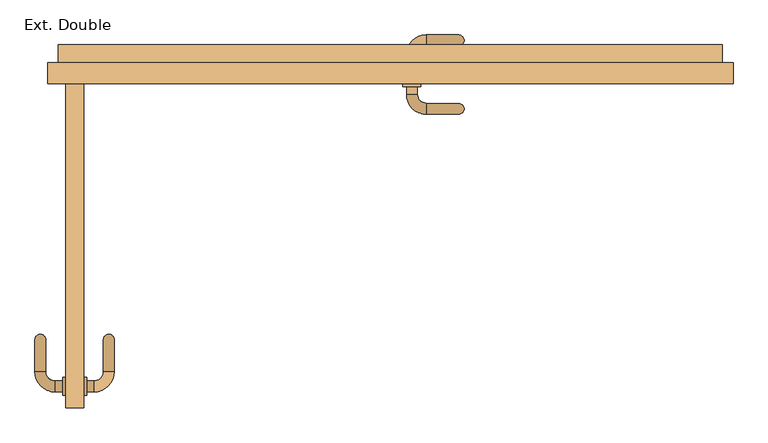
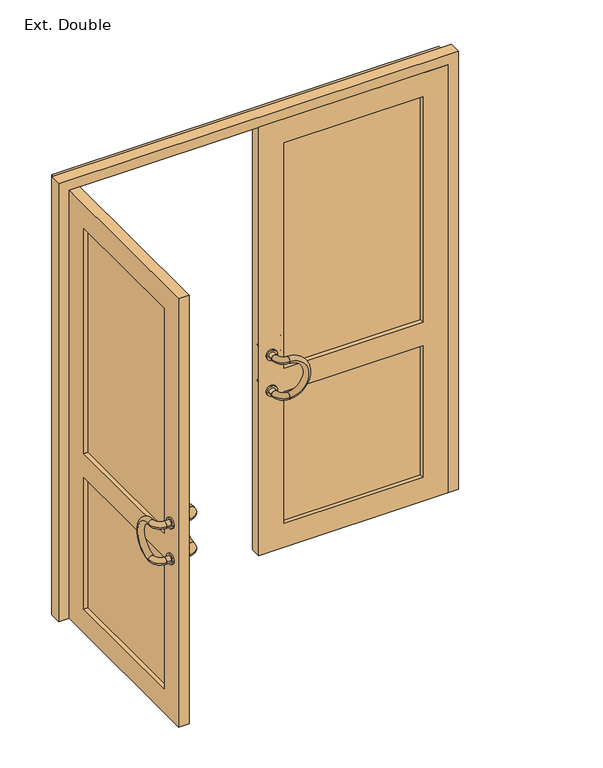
"""IFC4 building model written with IfcOpenShell, lengths in millimetres: door geometry, Ext. Double : Vitrée avec traverse - 1.80 m x 2.15 m."""

from ifc_helpers import new_model, si_unit, point, frame, origin, place, context, project, spatial, polyline, circle_curve, ellipse_curve, trimmed, outline, extrude, faceted_brep, source, transform, mapped, element, save
from ifc_brep_helpers import plane_surface, cylinder_surface, revolved_surface, advanced_brep


def ext_double_655bdf71(model_context):
    return source(origin(), model_context, "Body", "SolidModel", [
        advanced_brep(
        [(35.0, -198.0, 990.0), (65.0, -198.0, 990.0), (90.0, -253.0, 990.0), (90.0, -223.0, 990.0)],
        [
            (0, 1, circle_curve(frame((50.0, -198.0, 990.0), z_axis=(0.0, 1.0, 0.0), x_axis=(1.0, 0.0, 0.0)), 15.0)),
            (1, 0, circle_curve(frame((50.0, -198.0, 990.0), z_axis=(0.0, 1.0, 0.0), x_axis=(1.0, 0.0, 0.0)), 15.0)),
            (2, 3, circle_curve(frame((90.0, -238.0, 990.0), z_axis=(1.0, 0.0, 0.0), x_axis=(0.0, 1.0, 0.0)), 15.0)),
            (3, 2, circle_curve(frame((90.0, -238.0, 990.0), z_axis=(1.0, 0.0, 0.0), x_axis=(0.0, 1.0, 0.0)), 15.0)),
            (3, 1, circle_curve(frame((90.0, -198.0, 990.0), z_axis=(0.0, 0.0, -1.0), x_axis=(-1.0, 0.0, 0.0)), 25.0)),
            (0, 2, circle_curve(frame((90.0, -198.0, 990.0), z_axis=(0.0, 0.0, 1.0), x_axis=(-1.0, 0.0, 0.0)), 55.0)),
        ],
        [
            plane_surface(frame((90.0, -198.0, 990.0), z_axis=(0.0, 1.0, 0.0), x_axis=(-1.0, 0.0, 0.0))),
            plane_surface(frame((90.0, -198.0, 990.0), z_axis=(1.0, 0.0, 0.0), x_axis=(0.0, -1.0, 0.0))),
            revolved_surface(trimmed(ellipse_curve(frame((50.0, -198.0, 990.0), z_axis=(0.0, 1.0, 0.0), x_axis=(1.0, 0.0, 0.0)), 15.0, 15.0), [point((35.0, -198.0, 990.0))], [point((65.0, -198.0, 990.0))], True, "CARTESIAN"), (90.0, -198.0, 990.0), (0.0, 0.0, 1.0)),
            revolved_surface(trimmed(ellipse_curve(frame((50.0, -198.0, 990.0), z_axis=(0.0, 1.0, 0.0), x_axis=(1.0, 0.0, 0.0)), 15.0, 15.0), [point((65.0, -198.0, 990.0))], [point((35.0, -198.0, 990.0))], True, "CARTESIAN"), (90.0, -198.0, 990.0), (0.0, 0.0, 1.0)),
        ],
        [
            (0, [[1, 2]]),
            (1, [[3, 4]]),
            (2, [[5, -1, 6, -4]]),
            (3, [[-6, -2, -5, -3]]),
        ],
    ),
        advanced_brep(
        [(35.0, -198.0, 810.0), (65.0, -198.0, 810.0), (90.0, -253.0, 810.0), (90.0, -223.0, 810.0)],
        [
            (0, 1, circle_curve(frame((50.0, -198.0, 810.0), z_axis=(0.0, 1.0, 0.0), x_axis=(1.0, 0.0, 0.0)), 15.0)),
            (1, 0, circle_curve(frame((50.0, -198.0, 810.0), z_axis=(0.0, 1.0, 0.0), x_axis=(1.0, 0.0, 0.0)), 15.0)),
            (2, 3, circle_curve(frame((90.0, -238.0, 810.0), z_axis=(1.0, 0.0, 0.0), x_axis=(0.0, 1.0, 0.0)), 15.0)),
            (3, 2, circle_curve(frame((90.0, -238.0, 810.0), z_axis=(1.0, 0.0, 0.0), x_axis=(0.0, 1.0, 0.0)), 15.0)),
            (3, 1, circle_curve(frame((90.0, -198.0, 810.0), z_axis=(0.0, 0.0, -1.0), x_axis=(-1.0, 0.0, 0.0)), 25.0)),
            (0, 2, circle_curve(frame((90.0, -198.0, 810.0), z_axis=(0.0, 0.0, 1.0), x_axis=(-1.0, 0.0, 0.0)), 55.0)),
        ],
        [
            plane_surface(frame((90.0, -198.0, 990.0), z_axis=(0.0, 1.0, 0.0), x_axis=(-1.0, 0.0, 0.0))),
            plane_surface(frame((90.0, -198.0, 990.0), z_axis=(1.0, 0.0, 0.0), x_axis=(0.0, -1.0, 0.0))),
            revolved_surface(trimmed(ellipse_curve(frame((50.0, -198.0, 810.0), z_axis=(0.0, 1.0, 0.0), x_axis=(1.0, 0.0, 0.0)), 15.0, 15.0), [point((35.0, -198.0, 810.0))], [point((65.0, -198.0, 810.0))], True, "CARTESIAN"), (90.0, -198.0, 990.0), (0.0, 0.0, 1.0)),
            revolved_surface(trimmed(ellipse_curve(frame((50.0, -198.0, 810.0), z_axis=(0.0, 1.0, 0.0), x_axis=(1.0, 0.0, 0.0)), 15.0, 15.0), [point((65.0, -198.0, 810.0))], [point((35.0, -198.0, 810.0))], True, "CARTESIAN"), (90.0, -198.0, 990.0), (0.0, 0.0, 1.0)),
        ],
        [
            (0, [[1, 2]]),
            (1, [[3, 4]]),
            (2, [[5, -1, 6, -4]]),
            (3, [[-6, -2, -5, -3]]),
        ],
    ),
        advanced_brep(
        [(90.0, -223.0, 990.0), (90.0, -253.0, 990.0), (90.0, -223.0, 810.0), (90.0, -253.0, 810.0)],
        [
            (0, 1, circle_curve(frame((90.0, -238.0, 990.0), z_axis=(-1.0, 0.0, 0.0), x_axis=(0.0, -1.0, 0.0)), 15.0)),
            (1, 0, circle_curve(frame((90.0, -238.0, 990.0), z_axis=(-1.0, 0.0, 0.0), x_axis=(0.0, -1.0, 0.0)), 15.0)),
            (2, 3, circle_curve(frame((90.0, -238.0, 810.0), z_axis=(-1.0, 0.0, 0.0), x_axis=(0.0, -1.0, 0.0)), 15.0)),
            (3, 2, circle_curve(frame((90.0, -238.0, 810.0), z_axis=(-1.0, 0.0, 0.0), x_axis=(0.0, -1.0, 0.0)), 15.0)),
            (3, 1, circle_curve(frame((90.0, -253.0, 900.0), z_axis=(0.0, -1.0, 0.0), x_axis=(0.0, 0.0, 1.0)), 90.0)),
            (0, 2, circle_curve(frame((90.0, -223.0, 900.0), z_axis=(0.0, 1.0, 0.0), x_axis=(0.0, 0.0, 1.0)), 90.0)),
        ],
        [
            plane_surface(frame((90.0, -253.0, 900.0), z_axis=(-1.0, 0.0, 0.0), x_axis=(0.0, 0.0, 1.0))),
            plane_surface(frame((90.0, -253.0, 900.0), z_axis=(-1.0, 0.0, 0.0), x_axis=(0.0, 0.0, -1.0))),
            revolved_surface(trimmed(ellipse_curve(frame((90.0, -238.0, 990.0), z_axis=(-1.0, 0.0, 0.0), x_axis=(0.0, -1.0, 0.0)), 15.0, 15.0), [point((90.0, -223.0, 990.0))], [point((90.0, -253.0, 990.0))], True, "CARTESIAN"), (90.0, -253.0, 900.0), (0.0, 1.0, 0.0)),
            revolved_surface(trimmed(ellipse_curve(frame((90.0, -238.0, 990.0), z_axis=(-1.0, 0.0, 0.0), x_axis=(0.0, -1.0, 0.0)), 15.0, 15.0), [point((90.0, -253.0, 990.0))], [point((90.0, -223.0, 990.0))], True, "CARTESIAN"), (90.0, -253.0, 900.0), (0.0, 1.0, 0.0)),
        ],
        [
            (0, [[1, 2]]),
            (1, [[3, 4]]),
            (2, [[5, -1, 6, -4]]),
            (3, [[-6, -2, -5, -3]]),
        ],
    ),
        advanced_brep(
        [(65.0, -88.0, 990.0), (35.0, -88.0, 990.0), (90.0, -63.0, 990.0), (90.0, -33.0, 990.0)],
        [
            (0, 1, circle_curve(frame((50.0, -88.0, 990.0), z_axis=(0.0, -1.0, 0.0), x_axis=(-1.0, 0.0, 0.0)), 15.0)),
            (1, 0, circle_curve(frame((50.0, -88.0, 990.0), z_axis=(0.0, -1.0, 0.0), x_axis=(-1.0, 0.0, 0.0)), 15.0)),
            (2, 3, circle_curve(frame((90.0, -48.0, 990.0), z_axis=(1.0, 0.0, 0.0), x_axis=(0.0, 1.0, 0.0)), 15.0)),
            (3, 2, circle_curve(frame((90.0, -48.0, 990.0), z_axis=(1.0, 0.0, 0.0), x_axis=(0.0, 1.0, 0.0)), 15.0)),
            (3, 1, circle_curve(frame((90.0, -88.0, 990.0), z_axis=(0.0, 0.0, 1.0), x_axis=(-1.0, 0.0, 0.0)), 55.0)),
            (0, 2, circle_curve(frame((90.0, -88.0, 990.0), z_axis=(0.0, 0.0, -1.0), x_axis=(-1.0, 0.0, 0.0)), 25.0)),
        ],
        [
            plane_surface(frame((90.0, -88.0, 990.0), z_axis=(0.0, -1.0, 0.0), x_axis=(-1.0, 0.0, 0.0))),
            plane_surface(frame((90.0, -88.0, 990.0), z_axis=(1.0, 0.0, 0.0), x_axis=(0.0, 1.0, 0.0))),
            revolved_surface(trimmed(ellipse_curve(frame((50.0, -88.0, 990.0), z_axis=(0.0, -1.0, 0.0), x_axis=(-1.0, 0.0, 0.0)), 15.0, 15.0), [point((65.0, -88.0, 990.0))], [point((35.0, -88.0, 990.0))], True, "CARTESIAN"), (90.0, -88.0, 990.0), (0.0, 0.0, -1.0)),
            revolved_surface(trimmed(ellipse_curve(frame((50.0, -88.0, 990.0), z_axis=(0.0, -1.0, 0.0), x_axis=(-1.0, 0.0, 0.0)), 15.0, 15.0), [point((35.0, -88.0, 990.0))], [point((65.0, -88.0, 990.0))], True, "CARTESIAN"), (90.0, -88.0, 990.0), (0.0, 0.0, -1.0)),
        ],
        [
            (0, [[1, 2]]),
            (1, [[3, 4]]),
            (2, [[5, -1, 6, -4]]),
            (3, [[-6, -2, -5, -3]]),
        ],
    ),
        advanced_brep(
        [(65.0, -88.0, 810.0), (35.0, -88.0, 810.0), (90.0, -63.0, 810.0), (90.0, -33.0, 810.0)],
        [
            (0, 1, circle_curve(frame((50.0, -88.0, 810.0), z_axis=(0.0, -1.0, 0.0), x_axis=(-1.0, 0.0, 0.0)), 15.0)),
            (1, 0, circle_curve(frame((50.0, -88.0, 810.0), z_axis=(0.0, -1.0, 0.0), x_axis=(-1.0, 0.0, 0.0)), 15.0)),
            (2, 3, circle_curve(frame((90.0, -48.0, 810.0), z_axis=(1.0, 0.0, 0.0), x_axis=(0.0, 1.0, 0.0)), 15.0)),
            (3, 2, circle_curve(frame((90.0, -48.0, 810.0), z_axis=(1.0, 0.0, 0.0), x_axis=(0.0, 1.0, 0.0)), 15.0)),
            (3, 1, circle_curve(frame((90.0, -88.0, 810.0), z_axis=(0.0, 0.0, 1.0), x_axis=(-1.0, 0.0, 0.0)), 55.0)),
            (0, 2, circle_curve(frame((90.0, -88.0, 810.0), z_axis=(0.0, 0.0, -1.0), x_axis=(-1.0, 0.0, 0.0)), 25.0)),
        ],
        [
            plane_surface(frame((90.0, -88.0, 990.0), z_axis=(0.0, -1.0, 0.0), x_axis=(-1.0, 0.0, 0.0))),
            plane_surface(frame((90.0, -88.0, 990.0), z_axis=(1.0, 0.0, 0.0), x_axis=(0.0, 1.0, 0.0))),
            revolved_surface(trimmed(ellipse_curve(frame((50.0, -88.0, 810.0), z_axis=(0.0, -1.0, 0.0), x_axis=(-1.0, 0.0, 0.0)), 15.0, 15.0), [point((65.0, -88.0, 810.0))], [point((35.0, -88.0, 810.0))], True, "CARTESIAN"), (90.0, -88.0, 990.0), (0.0, 0.0, -1.0)),
            revolved_surface(trimmed(ellipse_curve(frame((50.0, -88.0, 810.0), z_axis=(0.0, -1.0, 0.0), x_axis=(-1.0, 0.0, 0.0)), 15.0, 15.0), [point((35.0, -88.0, 810.0))], [point((65.0, -88.0, 810.0))], True, "CARTESIAN"), (90.0, -88.0, 990.0), (0.0, 0.0, -1.0)),
        ],
        [
            (0, [[1, 2]]),
            (1, [[3, 4]]),
            (2, [[5, -1, 6, -4]]),
            (3, [[-6, -2, -5, -3]]),
        ],
    ),
        advanced_brep(
        [(90.0, -33.0, 990.0), (90.0, -63.0, 990.0), (90.0, -33.0, 810.0), (90.0, -63.0, 810.0)],
        [
            (0, 1, circle_curve(frame((90.0, -48.0, 990.0), z_axis=(-1.0, 0.0, 0.0), x_axis=(0.0, -1.0, 0.0)), 15.0)),
            (1, 0, circle_curve(frame((90.0, -48.0, 990.0), z_axis=(-1.0, 0.0, 0.0), x_axis=(0.0, -1.0, 0.0)), 15.0)),
            (2, 3, circle_curve(frame((90.0, -48.0, 810.0), z_axis=(-1.0, 0.0, 0.0), x_axis=(0.0, -1.0, 0.0)), 15.0)),
            (3, 2, circle_curve(frame((90.0, -48.0, 810.0), z_axis=(-1.0, 0.0, 0.0), x_axis=(0.0, -1.0, 0.0)), 15.0)),
            (3, 1, circle_curve(frame((90.0, -63.0, 900.0), z_axis=(0.0, -1.0, 0.0), x_axis=(0.0, 0.0, 1.0)), 90.0)),
            (0, 2, circle_curve(frame((90.0, -33.0, 900.0), z_axis=(0.0, 1.0, 0.0), x_axis=(0.0, 0.0, 1.0)), 90.0)),
        ],
        [
            plane_surface(frame((90.0, -48.0, 900.0), z_axis=(-1.0, 0.0, 0.0), x_axis=(0.0, 0.0, 1.0))),
            plane_surface(frame((90.0, -48.0, 900.0), z_axis=(-1.0, 0.0, 0.0), x_axis=(0.0, 0.0, -1.0))),
            revolved_surface(trimmed(ellipse_curve(frame((90.0, -48.0, 990.0), z_axis=(-1.0, 0.0, 0.0), x_axis=(0.0, -1.0, 0.0)), 15.0, 15.0), [point((90.0, -33.0, 990.0))], [point((90.0, -63.0, 990.0))], True, "CARTESIAN"), (90.0, -48.0, 900.0), (0.0, 1.0, 0.0)),
            revolved_surface(trimmed(ellipse_curve(frame((90.0, -48.0, 990.0), z_axis=(-1.0, 0.0, 0.0), x_axis=(0.0, -1.0, 0.0)), 15.0, 15.0), [point((90.0, -63.0, 990.0))], [point((90.0, -33.0, 990.0))], True, "CARTESIAN"), (90.0, -48.0, 900.0), (0.0, 1.0, 0.0)),
        ],
        [
            (0, [[1, 2]]),
            (1, [[3, 4]]),
            (2, [[5, -1, 6, -4]]),
            (3, [[-6, -2, -5, -3]]),
        ],
    ),
        advanced_brep(
        [(25.0, -176.0, 990.0), (75.0, -176.0, 990.0), (65.0, -176.0, 990.0), (35.0, -176.0, 990.0), (25.0, -168.0, 990.0), (75.0, -168.0, 990.0), (35.0, -198.0, 990.0), (65.0, -198.0, 990.0)],
        [
            (0, 1, circle_curve(frame((50.0, -176.0, 990.0), z_axis=(0.0, -1.0, 0.0), x_axis=(1.0, 0.0, 0.0)), 25.0)),
            (1, 0, circle_curve(frame((50.0, -176.0, 990.0), z_axis=(0.0, -1.0, 0.0), x_axis=(1.0, 0.0, 0.0)), 25.0)),
            (2, 3, circle_curve(frame((50.0, -176.0, 990.0), z_axis=(0.0, 1.0, 0.0), x_axis=(1.0, 0.0, 0.0)), 15.0)),
            (3, 2, circle_curve(frame((50.0, -176.0, 990.0), z_axis=(0.0, 1.0, 0.0), x_axis=(1.0, 0.0, 0.0)), 15.0)),
            (4, 5, circle_curve(frame((50.0, -168.0, 990.0), z_axis=(0.0, 1.0, 0.0), x_axis=(1.0, 0.0, 0.0)), 25.0)),
            (5, 4, circle_curve(frame((50.0, -168.0, 990.0), z_axis=(0.0, 1.0, 0.0), x_axis=(1.0, 0.0, 0.0)), 25.0)),
            (0, 4),
            (5, 1),
            (6, 7, circle_curve(frame((50.0, -198.0, 990.0), z_axis=(0.0, -1.0, 0.0), x_axis=(1.0, 0.0, 0.0)), 15.0)),
            (7, 6, circle_curve(frame((50.0, -198.0, 990.0), z_axis=(0.0, -1.0, 0.0), x_axis=(1.0, 0.0, 0.0)), 15.0)),
            (6, 3),
            (2, 7),
        ],
        [
            plane_surface(frame((75.0, -176.0, 990.0), z_axis=(0.0, -1.0, 0.0), x_axis=(0.0, 0.0, 1.0))),
            plane_surface(frame((75.0, -168.0, 990.0), z_axis=(0.0, 1.0, 0.0), x_axis=(0.0, 0.0, -1.0))),
            cylinder_surface(frame((50.0, -168.0, 990.0), z_axis=(0.0, -1.0, 0.0), x_axis=(1.0, 0.0, 0.0)), 25.0),
            plane_surface(frame((65.0, -198.0, 990.0), z_axis=(0.0, -1.0, 0.0), x_axis=(0.0, 0.0, 1.0))),
            cylinder_surface(frame((50.0, -168.0, 990.0), z_axis=(0.0, -1.0, 0.0), x_axis=(1.0, 0.0, 0.0)), 15.0),
        ],
        [
            (0, [[1, 2], [3, 4]]),
            (1, [[5, 6]]),
            (2, [[-1, 7, -6, 8]]),
            (2, [[-2, -8, -5, -7]]),
            (3, [[9, 10]]),
            (4, [[-9, 11, -3, 12]]),
            (4, [[-10, -12, -4, -11]]),
        ],
    ),
        advanced_brep(
        [(25.0, -176.0, 810.0), (75.0, -176.0, 810.0), (65.0, -176.0, 810.0), (35.0, -176.0, 810.0), (25.0, -168.0, 810.0), (75.0, -168.0, 810.0), (35.0, -198.0, 810.0), (65.0, -198.0, 810.0)],
        [
            (0, 1, circle_curve(frame((50.0, -176.0, 810.0), z_axis=(0.0, -1.0, 0.0), x_axis=(1.0, 0.0, 0.0)), 25.0)),
            (1, 0, circle_curve(frame((50.0, -176.0, 810.0), z_axis=(0.0, -1.0, 0.0), x_axis=(1.0, 0.0, 0.0)), 25.0)),
            (2, 3, circle_curve(frame((50.0, -176.0, 810.0), z_axis=(0.0, 1.0, 0.0), x_axis=(1.0, 0.0, 0.0)), 15.0)),
            (3, 2, circle_curve(frame((50.0, -176.0, 810.0), z_axis=(0.0, 1.0, 0.0), x_axis=(1.0, 0.0, 0.0)), 15.0)),
            (4, 5, circle_curve(frame((50.0, -168.0, 810.0), z_axis=(0.0, 1.0, 0.0), x_axis=(1.0, 0.0, 0.0)), 25.0)),
            (5, 4, circle_curve(frame((50.0, -168.0, 810.0), z_axis=(0.0, 1.0, 0.0), x_axis=(1.0, 0.0, 0.0)), 25.0)),
            (0, 4),
            (5, 1),
            (6, 7, circle_curve(frame((50.0, -198.0, 810.0), z_axis=(0.0, -1.0, 0.0), x_axis=(1.0, 0.0, 0.0)), 15.0)),
            (7, 6, circle_curve(frame((50.0, -198.0, 810.0), z_axis=(0.0, -1.0, 0.0), x_axis=(1.0, 0.0, 0.0)), 15.0)),
            (6, 3),
            (2, 7),
        ],
        [
            plane_surface(frame((75.0, -176.0, 990.0), z_axis=(0.0, -1.0, 0.0), x_axis=(0.0, 0.0, 1.0))),
            plane_surface(frame((75.0, -168.0, 990.0), z_axis=(0.0, 1.0, 0.0), x_axis=(0.0, 0.0, -1.0))),
            cylinder_surface(frame((50.0, -168.0, 810.0), z_axis=(0.0, -1.0, 0.0), x_axis=(1.0, 0.0, 0.0)), 25.0),
            plane_surface(frame((65.0, -198.0, 990.0), z_axis=(0.0, -1.0, 0.0), x_axis=(0.0, 0.0, 1.0))),
            cylinder_surface(frame((50.0, -168.0, 810.0), z_axis=(0.0, -1.0, 0.0), x_axis=(1.0, 0.0, 0.0)), 15.0),
        ],
        [
            (0, [[1, 2], [3, 4]]),
            (1, [[5, 6]]),
            (2, [[-1, 7, -6, 8]]),
            (2, [[-2, -8, -5, -7]]),
            (3, [[9, 10]]),
            (4, [[-9, 11, -3, 12]]),
            (4, [[-10, -12, -4, -11]]),
        ],
    ),
        advanced_brep(
        [(25.0, -118.0, 810.0), (75.0, -118.0, 810.0), (25.0, -110.0, 810.0), (75.0, -110.0, 810.0), (35.0, -110.0, 810.0), (65.0, -110.0, 810.0), (35.0, -88.0, 810.0), (65.0, -88.0, 810.0)],
        [
            (0, 1, circle_curve(frame((50.0, -118.0, 810.0), z_axis=(0.0, -1.0, 0.0), x_axis=(1.0, 0.0, 0.0)), 25.0)),
            (1, 0, circle_curve(frame((50.0, -118.0, 810.0), z_axis=(0.0, -1.0, 0.0), x_axis=(1.0, 0.0, 0.0)), 25.0)),
            (2, 3, circle_curve(frame((50.0, -110.0, 810.0), z_axis=(0.0, 1.0, 0.0), x_axis=(1.0, 0.0, 0.0)), 25.0)),
            (3, 2, circle_curve(frame((50.0, -110.0, 810.0), z_axis=(0.0, 1.0, 0.0), x_axis=(1.0, 0.0, 0.0)), 25.0)),
            (4, 5, circle_curve(frame((50.0, -110.0, 810.0), z_axis=(0.0, -1.0, 0.0), x_axis=(1.0, 0.0, 0.0)), 15.0)),
            (5, 4, circle_curve(frame((50.0, -110.0, 810.0), z_axis=(0.0, -1.0, 0.0), x_axis=(1.0, 0.0, 0.0)), 15.0)),
            (0, 2),
            (3, 1),
            (6, 7, circle_curve(frame((50.0, -88.0, 810.0), z_axis=(0.0, 1.0, 0.0), x_axis=(1.0, 0.0, 0.0)), 15.0)),
            (7, 6, circle_curve(frame((50.0, -88.0, 810.0), z_axis=(0.0, 1.0, 0.0), x_axis=(1.0, 0.0, 0.0)), 15.0)),
            (7, 5),
            (4, 6),
        ],
        [
            plane_surface(frame((75.0, -118.0, 990.0), z_axis=(0.0, -1.0, 0.0), x_axis=(0.0, 0.0, 1.0))),
            plane_surface(frame((75.0, -110.0, 990.0), z_axis=(0.0, 1.0, 0.0), x_axis=(0.0, 0.0, -1.0))),
            cylinder_surface(frame((50.0, -118.0, 810.0), z_axis=(0.0, -1.0, 0.0), x_axis=(1.0, 0.0, 0.0)), 25.0),
            plane_surface(frame((65.0, -88.0, 990.0), z_axis=(0.0, 1.0, 0.0), x_axis=(0.0, 0.0, -1.0))),
            cylinder_surface(frame((50.0, -118.0, 810.0), z_axis=(0.0, -1.0, 0.0), x_axis=(1.0, 0.0, 0.0)), 15.0),
        ],
        [
            (0, [[1, 2]]),
            (1, [[3, 4], [5, 6]]),
            (2, [[-1, 7, -4, 8]]),
            (2, [[-2, -8, -3, -7]]),
            (3, [[9, 10]]),
            (4, [[-10, 11, -5, 12]]),
            (4, [[-9, -12, -6, -11]]),
        ],
    ),
        advanced_brep(
        [(25.0, -118.0, 990.0), (75.0, -118.0, 990.0), (25.0, -110.0, 990.0), (75.0, -110.0, 990.0), (35.0, -110.0, 990.0), (65.0, -110.0, 990.0), (35.0, -88.0, 990.0), (65.0, -88.0, 990.0)],
        [
            (0, 1, circle_curve(frame((50.0, -118.0, 990.0), z_axis=(0.0, -1.0, 0.0), x_axis=(1.0, 0.0, 0.0)), 25.0)),
            (1, 0, circle_curve(frame((50.0, -118.0, 990.0), z_axis=(0.0, -1.0, 0.0), x_axis=(1.0, 0.0, 0.0)), 25.0)),
            (2, 3, circle_curve(frame((50.0, -110.0, 990.0), z_axis=(0.0, 1.0, 0.0), x_axis=(1.0, 0.0, 0.0)), 25.0)),
            (3, 2, circle_curve(frame((50.0, -110.0, 990.0), z_axis=(0.0, 1.0, 0.0), x_axis=(1.0, 0.0, 0.0)), 25.0)),
            (4, 5, circle_curve(frame((50.0, -110.0, 990.0), z_axis=(0.0, -1.0, 0.0), x_axis=(1.0, 0.0, 0.0)), 15.0)),
            (5, 4, circle_curve(frame((50.0, -110.0, 990.0), z_axis=(0.0, -1.0, 0.0), x_axis=(1.0, 0.0, 0.0)), 15.0)),
            (0, 2),
            (3, 1),
            (6, 7, circle_curve(frame((50.0, -88.0, 990.0), z_axis=(0.0, 1.0, 0.0), x_axis=(1.0, 0.0, 0.0)), 15.0)),
            (7, 6, circle_curve(frame((50.0, -88.0, 990.0), z_axis=(0.0, 1.0, 0.0), x_axis=(1.0, 0.0, 0.0)), 15.0)),
            (7, 5),
            (4, 6),
        ],
        [
            plane_surface(frame((75.0, -118.0, 990.0), z_axis=(0.0, -1.0, 0.0), x_axis=(0.0, 0.0, 1.0))),
            plane_surface(frame((75.0, -110.0, 990.0), z_axis=(0.0, 1.0, 0.0), x_axis=(0.0, 0.0, -1.0))),
            cylinder_surface(frame((50.0, -110.0, 990.0), z_axis=(0.0, -1.0, 0.0), x_axis=(1.0, 0.0, 0.0)), 25.0),
            plane_surface(frame((65.0, -88.0, 990.0), z_axis=(0.0, 1.0, 0.0), x_axis=(0.0, 0.0, -1.0))),
            cylinder_surface(frame((50.0, -88.0, 990.0), z_axis=(0.0, -1.0, 0.0), x_axis=(1.0, 0.0, 0.0)), 15.0),
        ],
        [
            (0, [[1, 2]]),
            (1, [[3, 4], [5, 6]]),
            (2, [[-1, 7, -4, 8]]),
            (2, [[-2, -8, -3, -7]]),
            (3, [[9, 10]]),
            (4, [[-10, 11, -5, 12]]),
            (4, [[-9, -12, -6, -11]]),
        ],
    ),
        extrude(outline(polyline([(110.0, -138.0), (770.0, -138.0), (770.0, -148.0), (110.0, -148.0), (110.0, -138.0)])), frame((0.0, 0.0, 900.0), z_axis=(0.0, 0.0, 1.0), x_axis=(1.0, 0.0, 0.0)), (0.0, 0.0, 1.0), 1130.0),
        extrude(outline(polyline([(110.0, -138.0), (770.0, -138.0), (770.0, -148.0), (110.0, -148.0), (110.0, -138.0)])), frame((0.0, 0.0, 120.0), z_axis=(0.0, 0.0, 1.0), x_axis=(1.0, 0.0, 0.0)), (0.0, 0.0, 1.0), 660.0),
        extrude(outline(polyline([(2150.0, -10.0), (0.0, -10.0), (0.0, 890.0), (2150.0, 890.0), (2150.0, -10.0)]), holes=[polyline([(2030.0, 770.0), (900.0, 770.0), (900.0, 110.0), (2030.0, 110.0), (2030.0, 770.0)]), polyline([(780.0, 110.0), (780.0, 770.0), (120.0, 770.0), (120.0, 110.0), (780.0, 110.0)])]), frame((0.0, -168.0, 0.0), z_axis=(0.0, 1.0, 0.0), x_axis=(0.0, 0.0, 1.0)), (0.0, 0.0, 1.0), 50.0),
        advanced_brep(
        [(-940.0, -1023.0, 990.0), (-940.0, -993.0, 990.0), (-995.0, -968.0, 990.0), (-965.0, -968.0, 990.0)],
        [
            (0, 1, circle_curve(frame((-940.0, -1008.0, 990.0), z_axis=(1.0, 0.0, 0.0), x_axis=(0.0, 1.0, 0.0)), 15.0)),
            (1, 0, circle_curve(frame((-940.0, -1008.0, 990.0), z_axis=(1.0, 0.0, 0.0), x_axis=(0.0, 1.0, 0.0)), 15.0)),
            (2, 3, circle_curve(frame((-980.0, -968.0, 990.0), z_axis=(0.0, 1.0, 0.0), x_axis=(1.0, 0.0, 0.0)), 15.0)),
            (3, 2, circle_curve(frame((-980.0, -968.0, 990.0), z_axis=(0.0, 1.0, 0.0), x_axis=(1.0, 0.0, 0.0)), 15.0)),
            (2, 0, circle_curve(frame((-940.0, -968.0, 990.0), z_axis=(0.0, 0.0, 1.0), x_axis=(0.0, -1.0, 0.0)), 55.0)),
            (1, 3, circle_curve(frame((-940.0, -968.0, 990.0), z_axis=(0.0, 0.0, -1.0), x_axis=(0.0, -1.0, 0.0)), 25.0)),
        ],
        [
            plane_surface(frame((-940.0, -968.0, 990.0), z_axis=(1.0, 0.0, 0.0), x_axis=(0.0, -1.0, 0.0))),
            plane_surface(frame((-940.0, -968.0, 990.0), z_axis=(0.0, 1.0, 0.0), x_axis=(-1.0, 0.0, 0.0))),
            revolved_surface(trimmed(ellipse_curve(frame((-940.0, -1008.0, 990.0), z_axis=(-1.0, 0.0, 0.0), x_axis=(0.0, 1.0, 0.0)), 15.0, 15.0), [point((-940.0, -1023.0, 990.0))], [point((-940.0, -993.0, 990.0))], True, "CARTESIAN"), (-940.0, -968.0, 990.0), (0.0, 0.0, 1.0)),
            revolved_surface(trimmed(ellipse_curve(frame((-940.0, -1008.0, 990.0), z_axis=(-1.0, 0.0, 0.0), x_axis=(0.0, 1.0, 0.0)), 15.0, 15.0), [point((-940.0, -993.0, 990.0))], [point((-940.0, -1023.0, 990.0))], True, "CARTESIAN"), (-940.0, -968.0, 990.0), (0.0, 0.0, 1.0)),
        ],
        [
            (0, [[1, 2]]),
            (1, [[3, 4]]),
            (2, [[-3, 5, -2, 6]]),
            (3, [[-4, -6, -1, -5]]),
        ],
    ),
        advanced_brep(
        [(-940.0, -1023.0, 810.0), (-940.0, -993.0, 810.0), (-995.0, -968.0, 810.0), (-965.0, -968.0, 810.0)],
        [
            (0, 1, circle_curve(frame((-940.0, -1008.0, 810.0), z_axis=(1.0, 0.0, 0.0), x_axis=(0.0, 1.0, 0.0)), 15.0)),
            (1, 0, circle_curve(frame((-940.0, -1008.0, 810.0), z_axis=(1.0, 0.0, 0.0), x_axis=(0.0, 1.0, 0.0)), 15.0)),
            (2, 3, circle_curve(frame((-980.0, -968.0, 810.0), z_axis=(0.0, 1.0, 0.0), x_axis=(1.0, 0.0, 0.0)), 15.0)),
            (3, 2, circle_curve(frame((-980.0, -968.0, 810.0), z_axis=(0.0, 1.0, 0.0), x_axis=(1.0, 0.0, 0.0)), 15.0)),
            (2, 0, circle_curve(frame((-940.0, -968.0, 810.0), z_axis=(0.0, 0.0, 1.0), x_axis=(0.0, -1.0, 0.0)), 55.0)),
            (1, 3, circle_curve(frame((-940.0, -968.0, 810.0), z_axis=(0.0, 0.0, -1.0), x_axis=(0.0, -1.0, 0.0)), 25.0)),
        ],
        [
            plane_surface(frame((-940.0, -968.0, 990.0), z_axis=(1.0, 0.0, 0.0), x_axis=(0.0, -1.0, 0.0))),
            plane_surface(frame((-940.0, -968.0, 990.0), z_axis=(0.0, 1.0, 0.0), x_axis=(-1.0, 0.0, 0.0))),
            revolved_surface(trimmed(ellipse_curve(frame((-940.0, -1008.0, 810.0), z_axis=(-1.0, 0.0, 0.0), x_axis=(0.0, 1.0, 0.0)), 15.0, 15.0), [point((-940.0, -1023.0, 810.0))], [point((-940.0, -993.0, 810.0))], True, "CARTESIAN"), (-940.0, -968.0, 990.0), (0.0, 0.0, 1.0)),
            revolved_surface(trimmed(ellipse_curve(frame((-940.0, -1008.0, 810.0), z_axis=(-1.0, 0.0, 0.0), x_axis=(0.0, 1.0, 0.0)), 15.0, 15.0), [point((-940.0, -993.0, 810.0))], [point((-940.0, -1023.0, 810.0))], True, "CARTESIAN"), (-940.0, -968.0, 990.0), (0.0, 0.0, 1.0)),
        ],
        [
            (0, [[1, 2]]),
            (1, [[3, 4]]),
            (2, [[-3, 5, -2, 6]]),
            (3, [[-4, -6, -1, -5]]),
        ],
    ),
        advanced_brep(
        [(-965.0, -968.0, 990.0), (-995.0, -968.0, 990.0), (-965.0, -968.0, 810.0), (-995.0, -968.0, 810.0)],
        [
            (0, 1, circle_curve(frame((-980.0, -968.0, 990.0), z_axis=(0.0, -1.0, 0.0), x_axis=(-1.0, 0.0, 0.0)), 15.0)),
            (1, 0, circle_curve(frame((-980.0, -968.0, 990.0), z_axis=(0.0, -1.0, 0.0), x_axis=(-1.0, 0.0, 0.0)), 15.0)),
            (2, 3, circle_curve(frame((-980.0, -968.0, 810.0), z_axis=(0.0, -1.0, 0.0), x_axis=(-1.0, 0.0, 0.0)), 15.0)),
            (3, 2, circle_curve(frame((-980.0, -968.0, 810.0), z_axis=(0.0, -1.0, 0.0), x_axis=(-1.0, 0.0, 0.0)), 15.0)),
            (2, 0, circle_curve(frame((-965.0, -968.0, 900.0), z_axis=(1.0, 0.0, 0.0), x_axis=(0.0, 0.0, 1.0)), 90.0)),
            (1, 3, circle_curve(frame((-995.0, -968.0, 900.0), z_axis=(-1.0, 0.0, 0.0), x_axis=(0.0, 0.0, 1.0)), 90.0)),
        ],
        [
            plane_surface(frame((-995.0, -968.0, 900.0), z_axis=(0.0, -1.0, 0.0), x_axis=(0.0, 0.0, 1.0))),
            plane_surface(frame((-995.0, -968.0, 900.0), z_axis=(0.0, -1.0, 0.0), x_axis=(0.0, 0.0, -1.0))),
            revolved_surface(trimmed(ellipse_curve(frame((-980.0, -968.0, 990.0), z_axis=(0.0, 1.0, 0.0), x_axis=(-1.0, 0.0, 0.0)), 15.0, 15.0), [point((-965.0, -968.0, 990.0))], [point((-995.0, -968.0, 990.0))], True, "CARTESIAN"), (-995.0, -968.0, 900.0), (1.0, 0.0, 0.0)),
            revolved_surface(trimmed(ellipse_curve(frame((-980.0, -968.0, 990.0), z_axis=(0.0, 1.0, 0.0), x_axis=(-1.0, 0.0, 0.0)), 15.0, 15.0), [point((-995.0, -968.0, 990.0))], [point((-965.0, -968.0, 990.0))], True, "CARTESIAN"), (-995.0, -968.0, 900.0), (1.0, 0.0, 0.0)),
        ],
        [
            (0, [[1, 2]]),
            (1, [[3, 4]]),
            (2, [[-3, 5, -2, 6]]),
            (3, [[-4, -6, -1, -5]]),
        ],
    ),
        advanced_brep(
        [(-830.0, -993.0, 990.0), (-830.0, -1023.0, 990.0), (-805.0, -968.0, 990.0), (-775.0, -968.0, 990.0)],
        [
            (0, 1, circle_curve(frame((-830.0, -1008.0, 990.0), z_axis=(-1.0, 0.0, 0.0), x_axis=(0.0, -1.0, 0.0)), 15.0)),
            (1, 0, circle_curve(frame((-830.0, -1008.0, 990.0), z_axis=(-1.0, 0.0, 0.0), x_axis=(0.0, -1.0, 0.0)), 15.0)),
            (2, 3, circle_curve(frame((-790.0, -968.0, 990.0), z_axis=(0.0, 1.0, 0.0), x_axis=(1.0, 0.0, 0.0)), 15.0)),
            (3, 2, circle_curve(frame((-790.0, -968.0, 990.0), z_axis=(0.0, 1.0, 0.0), x_axis=(1.0, 0.0, 0.0)), 15.0)),
            (2, 0, circle_curve(frame((-830.0, -968.0, 990.0), z_axis=(0.0, 0.0, -1.0), x_axis=(0.0, -1.0, 0.0)), 25.0)),
            (1, 3, circle_curve(frame((-830.0, -968.0, 990.0), z_axis=(0.0, 0.0, 1.0), x_axis=(0.0, -1.0, 0.0)), 55.0)),
        ],
        [
            plane_surface(frame((-830.0, -968.0, 990.0), z_axis=(-1.0, 0.0, 0.0), x_axis=(0.0, -1.0, 0.0))),
            plane_surface(frame((-830.0, -968.0, 990.0), z_axis=(0.0, 1.0, 0.0), x_axis=(1.0, 0.0, 0.0))),
            revolved_surface(trimmed(ellipse_curve(frame((-830.0, -1008.0, 990.0), z_axis=(1.0, 0.0, 0.0), x_axis=(0.0, -1.0, 0.0)), 15.0, 15.0), [point((-830.0, -993.0, 990.0))], [point((-830.0, -1023.0, 990.0))], True, "CARTESIAN"), (-830.0, -968.0, 990.0), (0.0, 0.0, -1.0)),
            revolved_surface(trimmed(ellipse_curve(frame((-830.0, -1008.0, 990.0), z_axis=(1.0, 0.0, 0.0), x_axis=(0.0, -1.0, 0.0)), 15.0, 15.0), [point((-830.0, -1023.0, 990.0))], [point((-830.0, -993.0, 990.0))], True, "CARTESIAN"), (-830.0, -968.0, 990.0), (0.0, 0.0, -1.0)),
        ],
        [
            (0, [[1, 2]]),
            (1, [[3, 4]]),
            (2, [[-3, 5, -2, 6]]),
            (3, [[-4, -6, -1, -5]]),
        ],
    ),
        advanced_brep(
        [(-830.0, -993.0, 810.0), (-830.0, -1023.0, 810.0), (-805.0, -968.0, 810.0), (-775.0, -968.0, 810.0)],
        [
            (0, 1, circle_curve(frame((-830.0, -1008.0, 810.0), z_axis=(-1.0, 0.0, 0.0), x_axis=(0.0, -1.0, 0.0)), 15.0)),
            (1, 0, circle_curve(frame((-830.0, -1008.0, 810.0), z_axis=(-1.0, 0.0, 0.0), x_axis=(0.0, -1.0, 0.0)), 15.0)),
            (2, 3, circle_curve(frame((-790.0, -968.0, 810.0), z_axis=(0.0, 1.0, 0.0), x_axis=(1.0, 0.0, 0.0)), 15.0)),
            (3, 2, circle_curve(frame((-790.0, -968.0, 810.0), z_axis=(0.0, 1.0, 0.0), x_axis=(1.0, 0.0, 0.0)), 15.0)),
            (2, 0, circle_curve(frame((-830.0, -968.0, 810.0), z_axis=(0.0, 0.0, -1.0), x_axis=(0.0, -1.0, 0.0)), 25.0)),
            (1, 3, circle_curve(frame((-830.0, -968.0, 810.0), z_axis=(0.0, 0.0, 1.0), x_axis=(0.0, -1.0, 0.0)), 55.0)),
        ],
        [
            plane_surface(frame((-830.0, -968.0, 990.0), z_axis=(-1.0, 0.0, 0.0), x_axis=(0.0, -1.0, 0.0))),
            plane_surface(frame((-830.0, -968.0, 990.0), z_axis=(0.0, 1.0, 0.0), x_axis=(1.0, 0.0, 0.0))),
            revolved_surface(trimmed(ellipse_curve(frame((-830.0, -1008.0, 810.0), z_axis=(1.0, 0.0, 0.0), x_axis=(0.0, -1.0, 0.0)), 15.0, 15.0), [point((-830.0, -993.0, 810.0))], [point((-830.0, -1023.0, 810.0))], True, "CARTESIAN"), (-830.0, -968.0, 990.0), (0.0, 0.0, -1.0)),
            revolved_surface(trimmed(ellipse_curve(frame((-830.0, -1008.0, 810.0), z_axis=(1.0, 0.0, 0.0), x_axis=(0.0, -1.0, 0.0)), 15.0, 15.0), [point((-830.0, -1023.0, 810.0))], [point((-830.0, -993.0, 810.0))], True, "CARTESIAN"), (-830.0, -968.0, 990.0), (0.0, 0.0, -1.0)),
        ],
        [
            (0, [[1, 2]]),
            (1, [[3, 4]]),
            (2, [[-3, 5, -2, 6]]),
            (3, [[-4, -6, -1, -5]]),
        ],
    ),
        advanced_brep(
        [(-775.0, -968.0, 990.0), (-805.0, -968.0, 990.0), (-775.0, -968.0, 810.0), (-805.0, -968.0, 810.0)],
        [
            (0, 1, circle_curve(frame((-790.0, -968.0, 990.0), z_axis=(0.0, -1.0, 0.0), x_axis=(-1.0, 0.0, 0.0)), 15.0)),
            (1, 0, circle_curve(frame((-790.0, -968.0, 990.0), z_axis=(0.0, -1.0, 0.0), x_axis=(-1.0, 0.0, 0.0)), 15.0)),
            (2, 3, circle_curve(frame((-790.0, -968.0, 810.0), z_axis=(0.0, -1.0, 0.0), x_axis=(-1.0, 0.0, 0.0)), 15.0)),
            (3, 2, circle_curve(frame((-790.0, -968.0, 810.0), z_axis=(0.0, -1.0, 0.0), x_axis=(-1.0, 0.0, 0.0)), 15.0)),
            (2, 0, circle_curve(frame((-775.0, -968.0, 900.0), z_axis=(1.0, 0.0, 0.0), x_axis=(0.0, 0.0, 1.0)), 90.0)),
            (1, 3, circle_curve(frame((-805.0, -968.0, 900.0), z_axis=(-1.0, 0.0, 0.0), x_axis=(0.0, 0.0, 1.0)), 90.0)),
        ],
        [
            plane_surface(frame((-790.0, -968.0, 900.0), z_axis=(0.0, -1.0, 0.0), x_axis=(0.0, 0.0, 1.0))),
            plane_surface(frame((-790.0, -968.0, 900.0), z_axis=(0.0, -1.0, 0.0), x_axis=(0.0, 0.0, -1.0))),
            revolved_surface(trimmed(ellipse_curve(frame((-790.0, -968.0, 990.0), z_axis=(0.0, 1.0, 0.0), x_axis=(-1.0, 0.0, 0.0)), 15.0, 15.0), [point((-775.0, -968.0, 990.0))], [point((-805.0, -968.0, 990.0))], True, "CARTESIAN"), (-790.0, -968.0, 900.0), (1.0, 0.0, 0.0)),
            revolved_surface(trimmed(ellipse_curve(frame((-790.0, -968.0, 990.0), z_axis=(0.0, 1.0, 0.0), x_axis=(-1.0, 0.0, 0.0)), 15.0, 15.0), [point((-805.0, -968.0, 990.0))], [point((-775.0, -968.0, 990.0))], True, "CARTESIAN"), (-790.0, -968.0, 900.0), (1.0, 0.0, 0.0)),
        ],
        [
            (0, [[1, 2]]),
            (1, [[3, 4]]),
            (2, [[-3, 5, -2, 6]]),
            (3, [[-4, -6, -1, -5]]),
        ],
    ),
        advanced_brep(
        [(-918.0, -1033.0, 990.0), (-918.0, -983.0, 990.0), (-918.0, -993.0, 990.0), (-918.0, -1023.0, 990.0), (-910.0, -1033.0, 990.0), (-910.0, -983.0, 990.0), (-940.0, -1023.0, 990.0), (-940.0, -993.0, 990.0)],
        [
            (0, 1, circle_curve(frame((-918.0, -1008.0, 990.0), z_axis=(-1.0, 0.0, 0.0), x_axis=(0.0, 1.0, 0.0)), 25.0)),
            (1, 0, circle_curve(frame((-918.0, -1008.0, 990.0), z_axis=(-1.0, 0.0, 0.0), x_axis=(0.0, 1.0, 0.0)), 25.0)),
            (2, 3, circle_curve(frame((-918.0, -1008.0, 990.0), z_axis=(1.0, 0.0, 0.0), x_axis=(0.0, 1.0, 0.0)), 15.0)),
            (3, 2, circle_curve(frame((-918.0, -1008.0, 990.0), z_axis=(1.0, 0.0, 0.0), x_axis=(0.0, 1.0, 0.0)), 15.0)),
            (4, 5, circle_curve(frame((-910.0, -1008.0, 990.0), z_axis=(1.0, 0.0, 0.0), x_axis=(0.0, 1.0, 0.0)), 25.0)),
            (5, 4, circle_curve(frame((-910.0, -1008.0, 990.0), z_axis=(1.0, 0.0, 0.0), x_axis=(0.0, 1.0, 0.0)), 25.0)),
            (1, 5),
            (4, 0),
            (6, 7, circle_curve(frame((-940.0, -1008.0, 990.0), z_axis=(-1.0, 0.0, 0.0), x_axis=(0.0, 1.0, 0.0)), 15.0)),
            (7, 6, circle_curve(frame((-940.0, -1008.0, 990.0), z_axis=(-1.0, 0.0, 0.0), x_axis=(0.0, 1.0, 0.0)), 15.0)),
            (7, 2),
            (3, 6),
        ],
        [
            plane_surface(frame((-918.0, -983.0, 990.0), z_axis=(-1.0, 0.0, 0.0), x_axis=(0.0, 0.0, 1.0))),
            plane_surface(frame((-910.0, -983.0, 990.0), z_axis=(1.0, 0.0, 0.0), x_axis=(0.0, 0.0, -1.0))),
            cylinder_surface(frame((-910.0, -1008.0, 990.0), z_axis=(-1.0, 0.0, 0.0), x_axis=(0.0, 1.0, 0.0)), 25.0),
            plane_surface(frame((-940.0, -993.0, 990.0), z_axis=(-1.0, 0.0, 0.0), x_axis=(0.0, 0.0, 1.0))),
            cylinder_surface(frame((-910.0, -1008.0, 990.0), z_axis=(-1.0, 0.0, 0.0), x_axis=(0.0, 1.0, 0.0)), 15.0),
        ],
        [
            (0, [[1, 2], [3, 4]]),
            (1, [[5, 6]]),
            (2, [[7, -5, 8, -2]]),
            (2, [[-8, -6, -7, -1]]),
            (3, [[9, 10]]),
            (4, [[11, -4, 12, -10]]),
            (4, [[-12, -3, -11, -9]]),
        ],
    ),
        advanced_brep(
        [(-918.0, -1033.0, 810.0), (-918.0, -983.0, 810.0), (-918.0, -993.0, 810.0), (-918.0, -1023.0, 810.0), (-910.0, -1033.0, 810.0), (-910.0, -983.0, 810.0), (-940.0, -1023.0, 810.0), (-940.0, -993.0, 810.0)],
        [
            (0, 1, circle_curve(frame((-918.0, -1008.0, 810.0), z_axis=(-1.0, 0.0, 0.0), x_axis=(0.0, 1.0, 0.0)), 25.0)),
            (1, 0, circle_curve(frame((-918.0, -1008.0, 810.0), z_axis=(-1.0, 0.0, 0.0), x_axis=(0.0, 1.0, 0.0)), 25.0)),
            (2, 3, circle_curve(frame((-918.0, -1008.0, 810.0), z_axis=(1.0, 0.0, 0.0), x_axis=(0.0, 1.0, 0.0)), 15.0)),
            (3, 2, circle_curve(frame((-918.0, -1008.0, 810.0), z_axis=(1.0, 0.0, 0.0), x_axis=(0.0, 1.0, 0.0)), 15.0)),
            (4, 5, circle_curve(frame((-910.0, -1008.0, 810.0), z_axis=(1.0, 0.0, 0.0), x_axis=(0.0, 1.0, 0.0)), 25.0)),
            (5, 4, circle_curve(frame((-910.0, -1008.0, 810.0), z_axis=(1.0, 0.0, 0.0), x_axis=(0.0, 1.0, 0.0)), 25.0)),
            (1, 5),
            (4, 0),
            (6, 7, circle_curve(frame((-940.0, -1008.0, 810.0), z_axis=(-1.0, 0.0, 0.0), x_axis=(0.0, 1.0, 0.0)), 15.0)),
            (7, 6, circle_curve(frame((-940.0, -1008.0, 810.0), z_axis=(-1.0, 0.0, 0.0), x_axis=(0.0, 1.0, 0.0)), 15.0)),
            (7, 2),
            (3, 6),
        ],
        [
            plane_surface(frame((-918.0, -983.0, 990.0), z_axis=(-1.0, 0.0, 0.0), x_axis=(0.0, 0.0, 1.0))),
            plane_surface(frame((-910.0, -983.0, 990.0), z_axis=(1.0, 0.0, 0.0), x_axis=(0.0, 0.0, -1.0))),
            cylinder_surface(frame((-910.0, -1008.0, 810.0), z_axis=(-1.0, 0.0, 0.0), x_axis=(0.0, 1.0, 0.0)), 25.0),
            plane_surface(frame((-940.0, -993.0, 990.0), z_axis=(-1.0, 0.0, 0.0), x_axis=(0.0, 0.0, 1.0))),
            cylinder_surface(frame((-910.0, -1008.0, 810.0), z_axis=(-1.0, 0.0, 0.0), x_axis=(0.0, 1.0, 0.0)), 15.0),
        ],
        [
            (0, [[1, 2], [3, 4]]),
            (1, [[5, 6]]),
            (2, [[7, -5, 8, -2]]),
            (2, [[-8, -6, -7, -1]]),
            (3, [[9, 10]]),
            (4, [[11, -4, 12, -10]]),
            (4, [[-12, -3, -11, -9]]),
        ],
    ),
        advanced_brep(
        [(-860.0, -1033.0, 810.0), (-860.0, -983.0, 810.0), (-852.0, -1033.0, 810.0), (-852.0, -983.0, 810.0), (-852.0, -1023.0, 810.0), (-852.0, -993.0, 810.0), (-830.0, -1023.0, 810.0), (-830.0, -993.0, 810.0)],
        [
            (0, 1, circle_curve(frame((-860.0, -1008.0, 810.0), z_axis=(-1.0, 0.0, 0.0), x_axis=(0.0, 1.0, 0.0)), 25.0)),
            (1, 0, circle_curve(frame((-860.0, -1008.0, 810.0), z_axis=(-1.0, 0.0, 0.0), x_axis=(0.0, 1.0, 0.0)), 25.0)),
            (2, 3, circle_curve(frame((-852.0, -1008.0, 810.0), z_axis=(1.0, 0.0, 0.0), x_axis=(0.0, 1.0, 0.0)), 25.0)),
            (3, 2, circle_curve(frame((-852.0, -1008.0, 810.0), z_axis=(1.0, 0.0, 0.0), x_axis=(0.0, 1.0, 0.0)), 25.0)),
            (4, 5, circle_curve(frame((-852.0, -1008.0, 810.0), z_axis=(-1.0, 0.0, 0.0), x_axis=(0.0, 1.0, 0.0)), 15.0)),
            (5, 4, circle_curve(frame((-852.0, -1008.0, 810.0), z_axis=(-1.0, 0.0, 0.0), x_axis=(0.0, 1.0, 0.0)), 15.0)),
            (1, 3),
            (2, 0),
            (6, 7, circle_curve(frame((-830.0, -1008.0, 810.0), z_axis=(1.0, 0.0, 0.0), x_axis=(0.0, 1.0, 0.0)), 15.0)),
            (7, 6, circle_curve(frame((-830.0, -1008.0, 810.0), z_axis=(1.0, 0.0, 0.0), x_axis=(0.0, 1.0, 0.0)), 15.0)),
            (6, 4),
            (5, 7),
        ],
        [
            plane_surface(frame((-860.0, -983.0, 990.0), z_axis=(-1.0, 0.0, 0.0), x_axis=(0.0, 0.0, 1.0))),
            plane_surface(frame((-852.0, -983.0, 990.0), z_axis=(1.0, 0.0, 0.0), x_axis=(0.0, 0.0, -1.0))),
            cylinder_surface(frame((-860.0, -1008.0, 810.0), z_axis=(-1.0, 0.0, 0.0), x_axis=(0.0, 1.0, 0.0)), 25.0),
            plane_surface(frame((-830.0, -993.0, 990.0), z_axis=(1.0, 0.0, 0.0), x_axis=(0.0, 0.0, -1.0))),
            cylinder_surface(frame((-860.0, -1008.0, 810.0), z_axis=(-1.0, 0.0, 0.0), x_axis=(0.0, 1.0, 0.0)), 15.0),
        ],
        [
            (0, [[1, 2]]),
            (1, [[3, 4], [5, 6]]),
            (2, [[7, -3, 8, -2]]),
            (2, [[-8, -4, -7, -1]]),
            (3, [[9, 10]]),
            (4, [[11, -6, 12, -9]]),
            (4, [[-12, -5, -11, -10]]),
        ],
    ),
        advanced_brep(
        [(-860.0, -1033.0, 990.0), (-860.0, -983.0, 990.0), (-852.0, -1033.0, 990.0), (-852.0, -983.0, 990.0), (-852.0, -1023.0, 990.0), (-852.0, -993.0, 990.0), (-830.0, -1023.0, 990.0), (-830.0, -993.0, 990.0)],
        [
            (0, 1, circle_curve(frame((-860.0, -1008.0, 990.0), z_axis=(-1.0, 0.0, 0.0), x_axis=(0.0, 1.0, 0.0)), 25.0)),
            (1, 0, circle_curve(frame((-860.0, -1008.0, 990.0), z_axis=(-1.0, 0.0, 0.0), x_axis=(0.0, 1.0, 0.0)), 25.0)),
            (2, 3, circle_curve(frame((-852.0, -1008.0, 990.0), z_axis=(1.0, 0.0, 0.0), x_axis=(0.0, 1.0, 0.0)), 25.0)),
            (3, 2, circle_curve(frame((-852.0, -1008.0, 990.0), z_axis=(1.0, 0.0, 0.0), x_axis=(0.0, 1.0, 0.0)), 25.0)),
            (4, 5, circle_curve(frame((-852.0, -1008.0, 990.0), z_axis=(-1.0, 0.0, 0.0), x_axis=(0.0, 1.0, 0.0)), 15.0)),
            (5, 4, circle_curve(frame((-852.0, -1008.0, 990.0), z_axis=(-1.0, 0.0, 0.0), x_axis=(0.0, 1.0, 0.0)), 15.0)),
            (1, 3),
            (2, 0),
            (6, 7, circle_curve(frame((-830.0, -1008.0, 990.0), z_axis=(1.0, 0.0, 0.0), x_axis=(0.0, 1.0, 0.0)), 15.0)),
            (7, 6, circle_curve(frame((-830.0, -1008.0, 990.0), z_axis=(1.0, 0.0, 0.0), x_axis=(0.0, 1.0, 0.0)), 15.0)),
            (6, 4),
            (5, 7),
        ],
        [
            plane_surface(frame((-860.0, -983.0, 990.0), z_axis=(-1.0, 0.0, 0.0), x_axis=(0.0, 0.0, 1.0))),
            plane_surface(frame((-852.0, -983.0, 990.0), z_axis=(1.0, 0.0, 0.0), x_axis=(0.0, 0.0, -1.0))),
            cylinder_surface(frame((-852.0, -1008.0, 990.0), z_axis=(-1.0, 0.0, 0.0), x_axis=(0.0, 1.0, 0.0)), 25.0),
            plane_surface(frame((-830.0, -993.0, 990.0), z_axis=(1.0, 0.0, 0.0), x_axis=(0.0, 0.0, -1.0))),
            cylinder_surface(frame((-830.0, -1008.0, 990.0), z_axis=(-1.0, 0.0, 0.0), x_axis=(0.0, 1.0, 0.0)), 15.0),
        ],
        [
            (0, [[1, 2]]),
            (1, [[3, 4], [5, 6]]),
            (2, [[7, -3, 8, -2]]),
            (2, [[-8, -4, -7, -1]]),
            (3, [[9, 10]]),
            (4, [[11, -6, 12, -9]]),
            (4, [[-12, -5, -11, -10]]),
        ],
    ),
        extrude(outline(polyline([(-880.0, -948.0), (-890.0, -948.0), (-890.0, -288.0), (-880.0, -288.0), (-880.0, -948.0)])), frame((0.0, 0.0, 900.0), z_axis=(0.0, 0.0, 1.0), x_axis=(1.0, 0.0, 0.0)), (0.0, 0.0, 1.0), 1130.0),
        extrude(outline(polyline([(-880.0, -948.0), (-890.0, -948.0), (-890.0, -288.0), (-880.0, -288.0), (-880.0, -948.0)])), frame((0.0, 0.0, 120.0), z_axis=(0.0, 0.0, 1.0), x_axis=(1.0, 0.0, 0.0)), (0.0, 0.0, 1.0), 660.0),
        extrude(outline(polyline([(-1068.0, 2150.0), (-168.0, 2150.0), (-168.0, 0.0), (-1068.0, 0.0), (-1068.0, 2150.0)]), holes=[polyline([(-288.0, 2030.0), (-948.0, 2030.0), (-948.0, 900.0), (-288.0, 900.0), (-288.0, 2030.0)]), polyline([(-948.0, 780.0), (-948.0, 120.0), (-288.0, 120.0), (-288.0, 780.0), (-948.0, 780.0)])]), frame((-910.0, 0.0, 0.0), z_axis=(1.0, 0.0, 0.0), x_axis=(0.0, 1.0, 0.0)), (0.0, 0.0, 1.0), 50.0),
        faceted_brep([(-960.0, -110.0, 0.0), (-930.0, -110.0, 0.0), (-930.0, -60.0, 0.0), (-920.0, -60.0, 0.0), (-920.0, -110.0, 0.0), (-900.0, -110.0, 0.0), (-900.0, -120.0, 0.0), (-910.0, -120.0, 0.0), (-910.0, -168.0, 0.0), (-960.0, -168.0, 0.0), (-960.0, -110.0, 2200.0), (940.0, -110.0, 2200.0), (940.0, -110.0, 0.0), (910.0, -110.0, 0.0), (910.0, -110.0, 2170.0), (-930.0, -110.0, 2170.0), (-930.0, -60.0, 2170.0), (910.0, -60.0, 2170.0), (910.0, -60.0, 0.0), (900.0, -60.0, 0.0), (900.0, -60.0, 2160.0), (-920.0, -60.0, 2160.0), (-920.0, -110.0, 2160.0), (900.0, -110.0, 2160.0), (900.0, -110.0, 0.0), (880.0, -110.0, 0.0), (880.0, -110.0, 2140.0), (-900.0, -110.0, 2140.0), (-900.0, -120.0, 2140.0), (880.0, -120.0, 2140.0), (880.0, -120.0, 0.0), (890.0, -120.0, 0.0), (890.0, -120.0, 2150.0), (-910.0, -120.0, 2150.0), (-910.0, -168.0, 2150.0), (890.0, -168.0, 2150.0), (890.0, -168.0, 0.0), (940.0, -168.0, 0.0), (940.0, -168.0, 2200.0), (-960.0, -168.0, 2200.0)], [[[0, 1, 2, 3, 4, 5, 6, 7, 8, 9]], [[1, 0, 10, 11, 12, 13, 14, 15]], [[2, 1, 15, 16]], [[3, 2, 16, 17, 18, 19, 20, 21]], [[4, 3, 21, 22]], [[5, 4, 22, 23, 24, 25, 26, 27]], [[6, 5, 27, 28]], [[7, 6, 28, 29, 30, 31, 32, 33]], [[8, 7, 33, 34]], [[9, 8, 34, 35, 36, 37, 38, 39]], [[0, 9, 39, 10]], [[11, 38, 37, 12]], [[12, 37, 36, 31, 30, 25, 24, 19, 18, 13]], [[17, 14, 13, 18]], [[23, 20, 19, 24]], [[29, 26, 25, 30]], [[35, 32, 31, 36]], [[16, 15, 14, 17]], [[22, 21, 20, 23]], [[28, 27, 26, 29]], [[34, 33, 32, 35]], [[10, 39, 38, 11]]]),
    ])


if __name__ == "__main__":
    model = new_model("IFC4")
    model_context = context("Model", 3, world=origin())
    ifc_project = project(units=[si_unit("LENGTHUNIT", "METRE", prefix="MILLI")], contexts=[model_context])
    site = spatial("IfcSite", under=ifc_project)
    building = spatial("IfcBuilding", under=site)
    placement = place(None, origin())
    ext_double_shape = ext_double_655bdf71(model_context)
    element("IfcDoor", 1, ObjectType="Ext. Double : Vitrée avec traverse - 1.80 m x 2.15 m", at=placement, inside=building, context=model_context, shape_type="MappedRepresentation", body=[
        mapped(ext_double_shape, transform((0.0, 0.0, 0.0), x_axis=(1.0, 0.0, 0.0), y_axis=(0.0, 1.0, 0.0), z_axis=(0.0, 0.0, 1.0))),
    ])
    save(model, "model.ifc")
